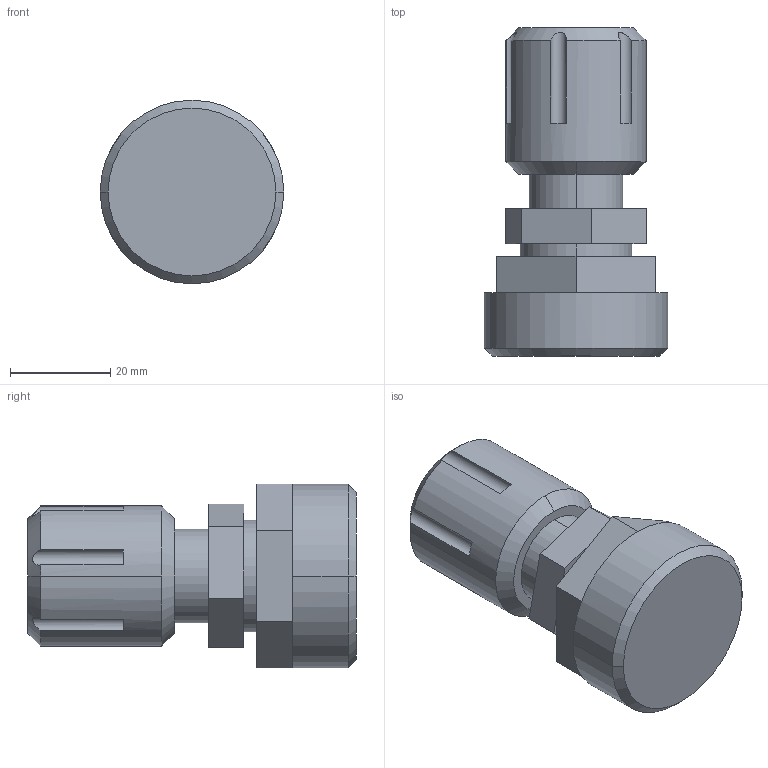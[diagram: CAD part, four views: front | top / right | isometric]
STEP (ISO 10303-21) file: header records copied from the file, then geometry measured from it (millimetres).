
FILE_DESCRIPTION (( 'STEP AP214' ), '1' );
FILE_NAME ('08-flaretek-with-top-mount-adapter.STEP', '2012-11-27T22:11:35', ( '' ), ( '' ), 'SwSTEP 2.0', 'SolidWorks 2012', '' );
FILE_SCHEMA (( 'AUTOMOTIVE_DESIGN' ));
Length unit declared in the file: inch
Products named in the file (1): 08-flaretek-with-top-mount-adapter
Bounding box: 36.6 x 65.45 x 36.66 mm (x, y, z)
Volume: 42275.1 mm3; surface area: 9191.9 mm2
Topology: 1 solids, 1 shells, 62 faces, 149 edges, 94 vertices
Faces by surface type: plane 37, cylinder 19, cone 6
Entity records: 2285 total; most frequent: CARTESIAN_POINT 451, DIRECTION 327, ORIENTED_EDGE 298, EDGE_CURVE 149, AXIS2_PLACEMENT_3D 124, VERTEX_POINT 94, VECTOR 79, LINE 79
